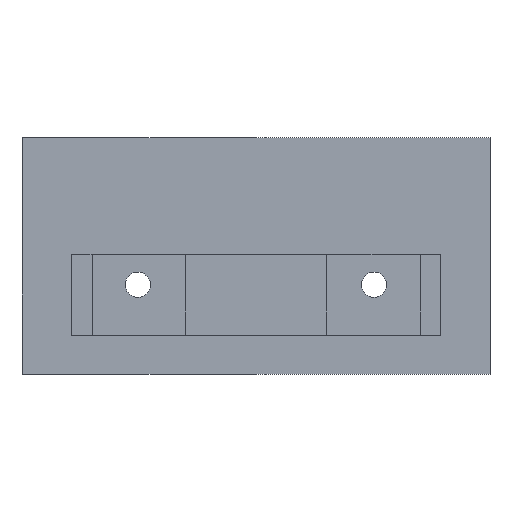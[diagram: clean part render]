
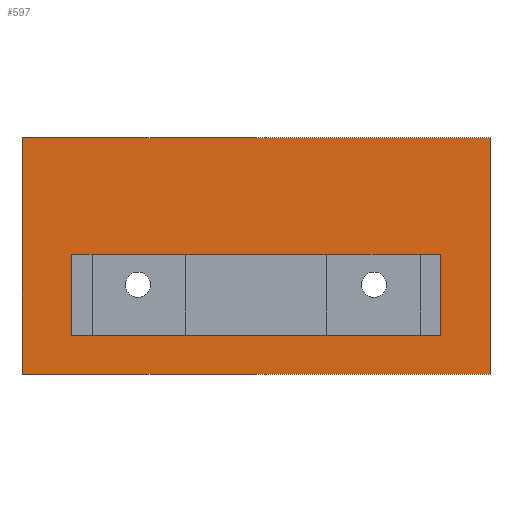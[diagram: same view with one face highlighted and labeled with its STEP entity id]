
A CAD part, top view. The second image highlights one B-rep face of the part: STEP entity #597.
In plain terms, the highlighted planar face has unit normal (0, 0, 1).
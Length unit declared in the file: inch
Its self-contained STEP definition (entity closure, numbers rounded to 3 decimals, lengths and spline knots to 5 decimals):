
#34=DIRECTION('',(0.,-1.,0.));
#35=VECTOR('',#34,0.6);
#36=CARTESIAN_POINT('',(0.369,-0.863,-0.15));
#37=LINE('',#36,#35);
#38=DIRECTION('',(1.,0.,0.));
#39=VECTOR('',#38,2.732);
#40=CARTESIAN_POINT('',(0.369,-1.463,-0.15));
#41=LINE('',#40,#39);
#42=DIRECTION('',(0.,-1.,0.));
#43=VECTOR('',#42,1.75);
#44=CARTESIAN_POINT('',(3.469,0.,-0.15));
#45=LINE('',#44,#43);
#46=DIRECTION('',(0.,1.,0.));
#47=VECTOR('',#46,1.75);
#48=CARTESIAN_POINT('',(0.,-1.75,-0.15));
#49=LINE('',#48,#47);
#50=DIRECTION('',(1.,0.,0.));
#51=VECTOR('',#50,3.469);
#52=CARTESIAN_POINT('',(0.,0.,-0.15));
#53=LINE('',#52,#51);
#86=DIRECTION('',(1.,0.,0.));
#87=VECTOR('',#86,2.732);
#88=CARTESIAN_POINT('',(0.369,-0.863,-0.15));
#89=LINE('',#88,#87);
#90=DIRECTION('',(0.,-1.,0.));
#91=VECTOR('',#90,0.6);
#92=CARTESIAN_POINT('',(3.101,-0.863,-0.15));
#93=LINE('',#92,#91);
#224=DIRECTION('',(1.,0.,0.));
#225=VECTOR('',#224,3.469);
#226=CARTESIAN_POINT('',(0.,-1.75,-0.15));
#227=LINE('',#226,#225);
#415=CARTESIAN_POINT('',(0.,-1.75,-0.15));
#417=VERTEX_POINT('',#415);
#431=CARTESIAN_POINT('',(0.,0.,-0.15));
#432=VERTEX_POINT('',#431);
#433=CARTESIAN_POINT('',(3.469,-1.75,-0.15));
#435=VERTEX_POINT('',#433);
#449=CARTESIAN_POINT('',(3.469,0.,-0.15));
#450=VERTEX_POINT('',#449);
#531=CARTESIAN_POINT('',(3.101,-0.863,-0.15));
#533=VERTEX_POINT('',#531);
#535=CARTESIAN_POINT('',(0.369,-0.863,-0.15));
#537=VERTEX_POINT('',#535);
#543=CARTESIAN_POINT('',(3.101,-1.463,-0.15));
#544=VERTEX_POINT('',#543);
#545=CARTESIAN_POINT('',(0.369,-1.463,-0.15));
#546=VERTEX_POINT('',#545);
#573=CARTESIAN_POINT('',(0.,0.,-0.15));
#574=DIRECTION('',(0.,0.,1.));
#575=DIRECTION('',(0.,-1.,0.));
#576=AXIS2_PLACEMENT_3D('',#573,#574,#575);
#577=PLANE('',#576);
#579=ORIENTED_EDGE('',*,*,#578,.T.);
#581=ORIENTED_EDGE('',*,*,#580,.F.);
#582=ORIENTED_EDGE('',*,*,#552,.T.);
#584=ORIENTED_EDGE('',*,*,#583,.T.);
#585=EDGE_LOOP('',(#579,#581,#582,#584));
#586=FACE_OUTER_BOUND('',#585,.F.);
#588=ORIENTED_EDGE('',*,*,#587,.T.);
#590=ORIENTED_EDGE('',*,*,#589,.T.);
#592=ORIENTED_EDGE('',*,*,#591,.F.);
#594=ORIENTED_EDGE('',*,*,#593,.F.);
#595=EDGE_LOOP('',(#588,#590,#592,#594));
#596=FACE_BOUND('',#595,.F.);
#597=ADVANCED_FACE('',(#586,#596),#577,.T.);
#552=EDGE_CURVE('',#417,#432,#49,.T.);
#578=EDGE_CURVE('',#450,#435,#45,.T.);
#580=EDGE_CURVE('',#417,#435,#227,.T.);
#583=EDGE_CURVE('',#432,#450,#53,.T.);
#587=EDGE_CURVE('',#537,#546,#37,.T.);
#589=EDGE_CURVE('',#546,#544,#41,.T.);
#591=EDGE_CURVE('',#533,#544,#93,.T.);
#593=EDGE_CURVE('',#537,#533,#89,.T.);
